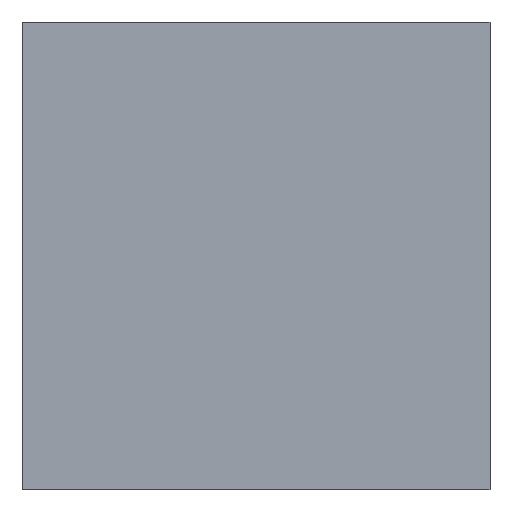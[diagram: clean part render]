
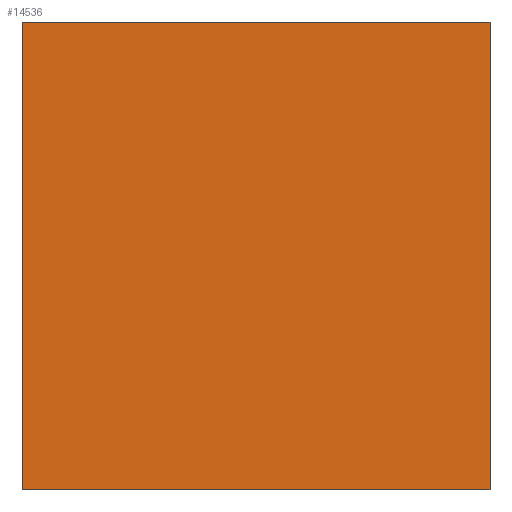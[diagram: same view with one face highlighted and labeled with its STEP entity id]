
A CAD part, left-side view. The second image highlights one B-rep face of the part: STEP entity #14536.
In plain terms, the highlighted planar face has unit normal (-1, 0, 0).
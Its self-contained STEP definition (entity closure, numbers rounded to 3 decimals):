
#848 = CARTESIAN_POINT ( 'NONE',  ( 0., -23., -23. ) ) ;
#1445 = VERTEX_POINT ( 'NONE', #7821 ) ;
#2098 = ORIENTED_EDGE ( 'NONE', *, *, #5811, .F. ) ;
#2431 = EDGE_LOOP ( 'NONE', ( #7178, #3392, #15489, #2098 ) ) ;
#2797 = DIRECTION ( 'NONE',  ( 0., 0., -1. ) ) ;
#3392 = ORIENTED_EDGE ( 'NONE', *, *, #10938, .F. ) ;
#3894 = VECTOR ( 'NONE', #2797, 1000. ) ;
#4091 = VECTOR ( 'NONE', #17337, 1000. ) ;
#4129 = DIRECTION ( 'NONE',  ( 0., -1., 0. ) ) ;
#4157 = CARTESIAN_POINT ( 'NONE',  ( 0., 23., -23. ) ) ;
#4460 = VERTEX_POINT ( 'NONE', #10514 ) ;
#4488 = VECTOR ( 'NONE', #16193, 1000. ) ;
#4775 = FACE_OUTER_BOUND ( 'NONE', #2431, .T. ) ;
#5811 = EDGE_CURVE ( 'NONE', #4460, #8757, #11864, .T. ) ;
#5878 = CARTESIAN_POINT ( 'NONE',  ( 0., 23., 23. ) ) ;
#6136 = DIRECTION ( 'NONE',  ( -1., 0., 0. ) ) ;
#6805 = AXIS2_PLACEMENT_3D ( 'NONE', #4157, #6136, #12645 ) ;
#7178 = ORIENTED_EDGE ( 'NONE', *, *, #9215, .F. ) ;
#7821 = CARTESIAN_POINT ( 'NONE',  ( 0., -23., 23. ) ) ;
#8020 = CARTESIAN_POINT ( 'NONE',  ( 0., 23., 23. ) ) ;
#8757 = VERTEX_POINT ( 'NONE', #5878 ) ;
#9215 = EDGE_CURVE ( 'NONE', #17842, #4460, #16096, .T. ) ;
#9351 = EDGE_CURVE ( 'NONE', #8757, #1445, #16515, .T. ) ;
#9823 = LINE ( 'NONE', #17055, #3894 ) ;
#10251 = CARTESIAN_POINT ( 'NONE',  ( 0., -23., -23. ) ) ;
#10503 = PLANE ( 'NONE',  #6805 ) ;
#10514 = CARTESIAN_POINT ( 'NONE',  ( 0., 23., -23. ) ) ;
#10938 = EDGE_CURVE ( 'NONE', #1445, #17842, #9823, .T. ) ;
#11864 = LINE ( 'NONE', #8020, #4091 ) ;
#12645 = DIRECTION ( 'NONE',  ( 0., 0., 1. ) ) ;
#12881 = CARTESIAN_POINT ( 'NONE',  ( 0., -23., 23. ) ) ;
#14536 = ADVANCED_FACE ( 'NONE', ( #4775 ), #10503, .T. ) ;
#15489 = ORIENTED_EDGE ( 'NONE', *, *, #9351, .F. ) ;
#16084 = VECTOR ( 'NONE', #4129, 1000. ) ;
#16096 = LINE ( 'NONE', #10251, #4488 ) ;
#16193 = DIRECTION ( 'NONE',  ( 0., 1., 0. ) ) ;
#16515 = LINE ( 'NONE', #12881, #16084 ) ;
#17055 = CARTESIAN_POINT ( 'NONE',  ( 0., -23., 23. ) ) ;
#17337 = DIRECTION ( 'NONE',  ( 0., 0., 1. ) ) ;
#17842 = VERTEX_POINT ( 'NONE', #848 ) ;
